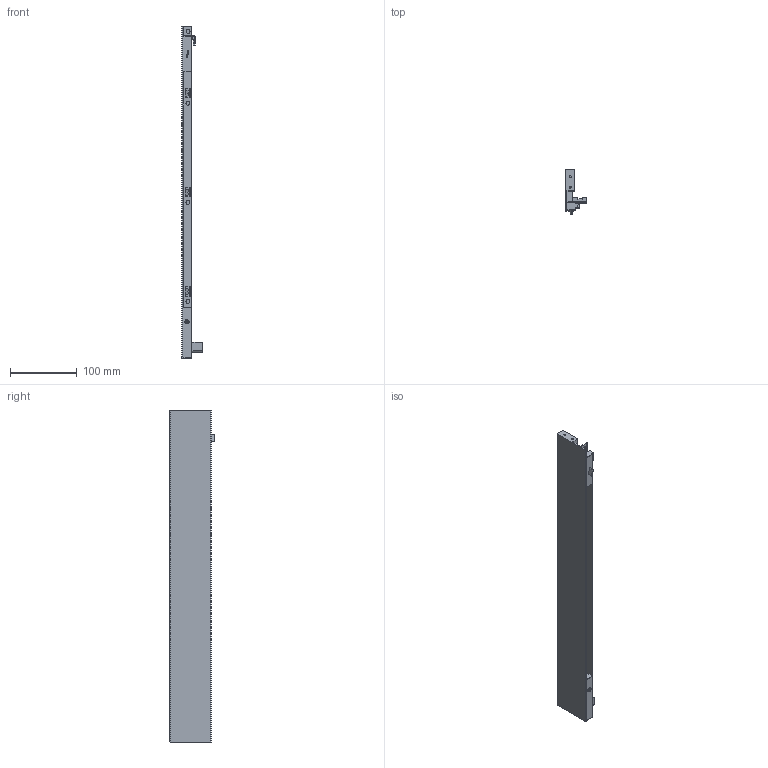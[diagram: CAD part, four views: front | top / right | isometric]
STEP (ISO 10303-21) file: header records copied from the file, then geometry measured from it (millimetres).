
FILE_DESCRIPTION (( 'STEP AP203' ), '1' );
FILE_NAME ('HT105001-L.STEP', '2021-03-30T00:50:46', ( 'Users' ), ( 'Microsoft' ), 'SwSTEP 2.0', 'SolidWorks 2018', '' );
FILE_SCHEMA (( 'CONFIG_CONTROL_DESIGN' ));
Length unit declared in the file: millimetre
Products named in the file (1): HT105001-L
Bounding box: 31.3 x 67.5 x 499 mm (x, y, z)
Volume: 268158.5 mm3; surface area: 98908.7 mm2
Topology: 1 solids, 8 shells, 357 faces, 920 edges, 579 vertices
Faces by surface type: plane 191, cylinder 118, bspline 23, torus 21, cone 2, sphere 2
Entity records: 11356 total; most frequent: CARTESIAN_POINT 2758, ORIENTED_EDGE 1830, DIRECTION 1705, EDGE_CURVE 915, LINE 589, VECTOR 589, VERTEX_POINT 579, AXIS2_PLACEMENT_3D 558
